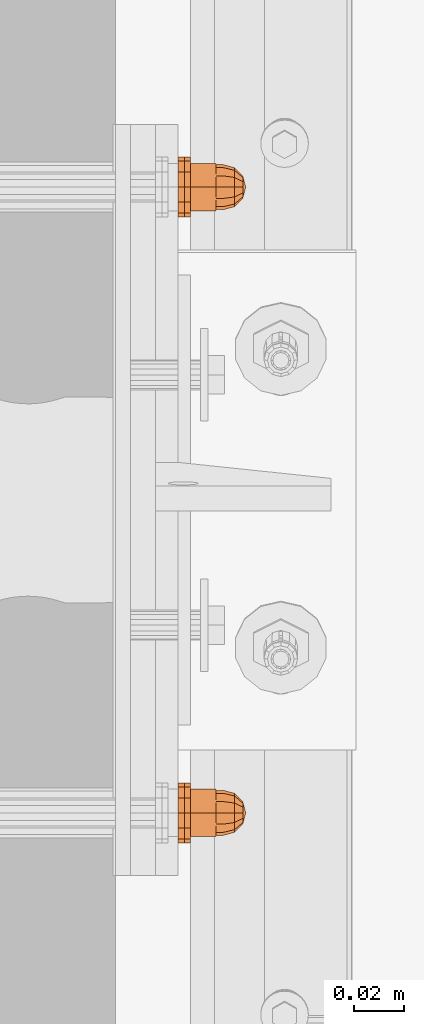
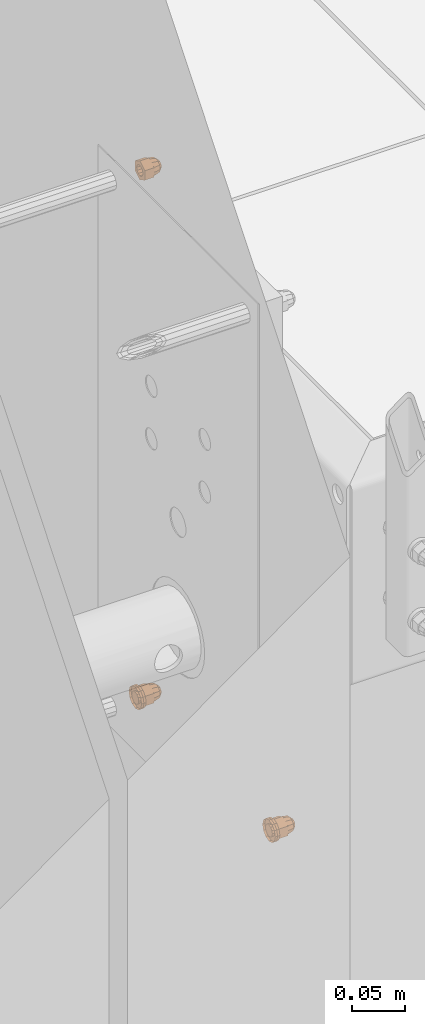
# One storey, part 113 of 162: 7 proxies.
"""IFC2X3 building model written with IfcOpenShell, lengths in millimetres."""

from ifc_helpers import new_model, entity, si_unit, converted_unit, origin_with_axes, place, context, project, spatial, faceted_brep, material, element, save


model = new_model("IFC2X3")

# Units and contexts
model_context = context("Model", 3, precision=1e-09, world=origin_with_axes())
ifc_project = project(units=[si_unit("LENGTHUNIT", "METRE", prefix="MILLI"), si_unit("AREAUNIT", "SQUARE_METRE"), si_unit("VOLUMEUNIT", "CUBIC_METRE"), converted_unit("PLANEANGLEUNIT", "DEGREE", entity("IfcPlaneAngleMeasure", 0.01745329), si_unit("PLANEANGLEUNIT", "RADIAN"), dimensions=[0, 0, 0, 0, 0, 0, 0])], contexts=[model_context])

# Site, building, storey
site_placement = place(None, origin_with_axes())
site = spatial("IfcSite", under=ifc_project, at=site_placement, Name="Hermannstra?e 1a, 60318 Frankfurt", CompositionType="ELEMENT")
building_placement = place(site_placement, origin_with_axes())
building = spatial("IfcBuilding", under=site, at=building_placement, Name="Struktur 1", CompositionType="ELEMENT")
storey_placement = place(building_placement, origin_with_axes())
storey = spatial("IfcBuildingStorey", under=building, at=storey_placement, Name="Default Storey", CompositionType="ELEMENT", Elevation=0.0)

# Proxies
ifc_material_1 = material(Name="Kunststoff")
proxy_1_placement = place(None, origin_with_axes())
element("IfcBuildingElementProxy", 1, at=proxy_1_placement, inside=storey, material=ifc_material_1, ObjectType="-", context=model_context, shape_type="Brep", body=[
    faceted_brep([(2548.308657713, 1941.00097164, 7311.0), (2550.808657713, 1941.00097164, 7311.0), (2550.808657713, 1942.608666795, 7305.0), (2548.308657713, 1942.608666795, 7305.0), (2548.308657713, 1936.237831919, 7308.25), (2548.308657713, 1933.858666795, 7310.629165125), (2548.308657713, 1930.608666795, 7311.5), (2548.308657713, 1927.358666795, 7310.629165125), (2548.308657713, 1924.97950167, 7308.25), (2548.308657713, 1924.108666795, 7305.0), (2548.308657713, 1924.97950167, 7301.75), (2548.308657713, 1927.358666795, 7299.370834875), (2548.308657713, 1930.608666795, 7298.5), (2548.308657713, 1933.858666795, 7299.370834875), (2548.308657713, 1936.237831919, 7301.75), (2548.308657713, 1937.108666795, 7305.0), (2550.808657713, 1937.108666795, 7305.0), (2550.808657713, 1936.237831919, 7308.25), (2550.808657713, 1936.608666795, 7315.392304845), (2550.808657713, 1930.608666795, 7317.0), (2550.808657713, 1924.608666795, 7315.392304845), (2550.808657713, 1920.216361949, 7311.0), (2550.808657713, 1918.608666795, 7305.0), (2550.808657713, 1920.216361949, 7299.0), (2550.808657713, 1924.608666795, 7294.607695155), (2550.808657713, 1930.608666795, 7293.0), (2550.808657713, 1936.608666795, 7294.607695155), (2550.808657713, 1941.00097164, 7299.0), (2548.308657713, 1936.608666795, 7315.392304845), (2550.808657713, 1936.237831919, 7301.75), (2548.308657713, 1941.00097164, 7299.0), (2550.808657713, 1933.858666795, 7310.629165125), (2548.308657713, 1930.608666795, 7317.0), (2550.808657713, 1933.858666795, 7299.370834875), (2548.308657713, 1936.608666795, 7294.607695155), (2550.808657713, 1930.608666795, 7311.5), (2550.808657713, 1930.608666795, 7298.5), (2548.308657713, 1924.608666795, 7315.392304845), (2550.808657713, 1927.358666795, 7310.629165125), (2548.308657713, 1930.608666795, 7293.0), (2550.808657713, 1927.358666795, 7299.370834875), (2548.308657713, 1920.216361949, 7311.0), (2550.808657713, 1924.97950167, 7308.25), (2548.308657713, 1924.608666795, 7294.607695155), (2550.808657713, 1924.97950167, 7301.75), (2548.308657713, 1918.608666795, 7305.0), (2550.808657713, 1924.108666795, 7305.0), (2548.308657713, 1920.216361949, 7299.0)], [[[0, 1, 2, 3]], [[4, 5, 6, 7, 8, 9, 10, 11, 12, 13, 14, 15]], [[15, 16, 17, 4]], [[1, 18, 19, 20, 21, 22, 23, 24, 25, 26, 27, 2]], [[1, 0, 28, 18]], [[16, 15, 14, 29]], [[3, 2, 27, 30]], [[4, 17, 31, 5]], [[18, 28, 32, 19]], [[29, 14, 13, 33]], [[30, 27, 26, 34]], [[5, 31, 35, 6]], [[33, 13, 12, 36]], [[19, 32, 37, 20]], [[6, 35, 38, 7]], [[34, 26, 25, 39]], [[36, 12, 11, 40]], [[20, 37, 41, 21]], [[7, 38, 42, 8]], [[39, 25, 24, 43]], [[40, 11, 10, 44]], [[21, 41, 45, 22]], [[8, 42, 46, 9]], [[43, 24, 23, 47]], [[44, 10, 9, 46]], [[22, 45, 47, 23]]]),
])
ifc_material_2 = material(Name="A4")
proxy_2_placement = place(None, origin_with_axes())
element("IfcBuildingElementProxy", 2, at=proxy_2_placement, inside=storey, material=ifc_material_2, ObjectType="-", context=model_context, shape_type="Brep", body=[
    faceted_brep([(2550.808657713, 1920.216361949, 7311.0), (2553.308657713, 1920.216361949, 7311.0), (2553.308657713, 1924.608666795, 7315.392304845), (2550.808657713, 1924.608666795, 7315.392304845), (2553.308657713, 1918.608666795, 7305.0), (2553.308657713, 1920.216361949, 7299.0), (2553.308657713, 1924.608666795, 7294.607695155), (2553.308657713, 1930.608666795, 7293.0), (2553.308657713, 1936.608666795, 7294.607695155), (2553.308657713, 1941.00097164, 7299.0), (2553.308657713, 1942.608666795, 7305.0), (2553.308657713, 1941.00097164, 7311.0), (2553.308657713, 1936.608666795, 7315.392304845), (2553.308657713, 1930.608666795, 7317.0), (2553.308657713, 1930.608666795, 7311.5), (2553.308657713, 1933.858666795, 7310.629165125), (2553.308657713, 1936.237831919, 7308.25), (2553.308657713, 1937.108666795, 7305.0), (2553.308657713, 1936.237831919, 7301.75), (2553.308657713, 1933.858666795, 7299.370834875), (2553.308657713, 1930.608666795, 7298.5), (2553.308657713, 1927.358666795, 7299.370834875), (2553.308657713, 1924.97950167, 7301.75), (2553.308657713, 1924.108666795, 7305.0), (2553.308657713, 1924.97950167, 7308.25), (2553.308657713, 1927.358666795, 7310.629165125), (2550.808657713, 1924.97950167, 7308.25), (2550.808657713, 1924.108666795, 7305.0), (2550.808657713, 1924.97950167, 7301.75), (2550.808657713, 1927.358666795, 7299.370834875), (2550.808657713, 1930.608666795, 7298.5), (2550.808657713, 1933.858666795, 7299.370834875), (2550.808657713, 1936.237831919, 7301.75), (2550.808657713, 1937.108666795, 7305.0), (2550.808657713, 1936.237831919, 7308.25), (2550.808657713, 1933.858666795, 7310.629165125), (2550.808657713, 1930.608666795, 7311.5), (2550.808657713, 1927.358666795, 7310.629165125), (2550.808657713, 1918.608666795, 7305.0), (2550.808657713, 1930.608666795, 7317.0), (2550.808657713, 1920.216361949, 7299.0), (2550.808657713, 1936.608666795, 7315.392304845), (2550.808657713, 1924.608666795, 7294.607695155), (2550.808657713, 1941.00097164, 7311.0), (2550.808657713, 1930.608666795, 7293.0), (2550.808657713, 1942.608666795, 7305.0), (2550.808657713, 1936.608666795, 7294.607695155), (2550.808657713, 1941.00097164, 7299.0)], [[[0, 1, 2, 3]], [[2, 1, 4, 5, 6, 7, 8, 9, 10, 11, 12, 13], [14, 15, 16, 17, 18, 19, 20, 21, 22, 23, 24, 25]], [[26, 27, 28, 29, 30, 31, 32, 33, 34, 35, 36, 37]], [[24, 26, 37, 25]], [[1, 0, 38, 4]], [[26, 24, 23, 27]], [[25, 37, 36, 14]], [[3, 2, 13, 39]], [[4, 38, 40, 5]], [[27, 23, 22, 28]], [[14, 36, 35, 15]], [[39, 13, 12, 41]], [[5, 40, 42, 6]], [[28, 22, 21, 29]], [[15, 35, 34, 16]], [[41, 12, 11, 43]], [[33, 17, 16, 34]], [[6, 42, 44, 7]], [[29, 21, 20, 30]], [[32, 18, 17, 33]], [[43, 11, 10, 45]], [[19, 31, 30, 20]], [[18, 32, 31, 19]], [[7, 44, 46, 8]], [[45, 10, 9, 47]], [[8, 46, 47, 9]]]),
])
proxy_3_placement = place(None, origin_with_axes())
element("IfcBuildingElementProxy", 3, at=proxy_3_placement, inside=storey, material=ifc_material_2, ObjectType="-", context=model_context, shape_type="Brep", body=[
    faceted_brep([(2563.308657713, 1936.608666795, 7305.0), (2553.308657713, 1936.608666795, 7305.0), (2553.308657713, 1935.804819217, 7302.0), (2563.308657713, 1935.804819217, 7302.0), (2553.308657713, 1933.608666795, 7299.803847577), (2563.308657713, 1933.608666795, 7299.803847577), (2563.308657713, 1935.804819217, 7308.0), (2553.308657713, 1935.804819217, 7308.0), (2553.308657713, 1940.088536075, 7310.473205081), (2553.308657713, 1940.088536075, 7299.526794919), (2553.308657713, 1930.608666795, 7294.053589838), (2553.308657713, 1921.128797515, 7299.526794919), (2553.308657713, 1921.128797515, 7310.473205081), (2553.308657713, 1930.608666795, 7315.946410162), (2553.308657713, 1933.608666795, 7310.196152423), (2553.308657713, 1930.608666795, 7311.0), (2553.308657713, 1927.608666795, 7310.196152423), (2553.308657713, 1925.412514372, 7308.0), (2553.308657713, 1924.608666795, 7305.0), (2553.308657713, 1925.412514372, 7302.0), (2553.308657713, 1927.608666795, 7299.803847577), (2553.308657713, 1930.608666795, 7299.0), (2563.308657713, 1940.088536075, 7310.473205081), (2563.308657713, 1930.608666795, 7315.946410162), (2563.308657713, 1921.128797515, 7310.473205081), (2563.308657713, 1921.128797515, 7299.526794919), (2563.308657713, 1930.608666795, 7294.053589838), (2563.308657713, 1940.088536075, 7299.526794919), (2563.308657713, 1933.608666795, 7310.196152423), (2563.308657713, 1930.608666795, 7299.0), (2563.308657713, 1930.608666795, 7311.0), (2563.308657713, 1927.608666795, 7299.803847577), (2563.308657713, 1927.608666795, 7310.196152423), (2563.308657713, 1925.412514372, 7302.0), (2563.308657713, 1925.412514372, 7308.0), (2563.308657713, 1924.608666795, 7305.0)], [[[0, 1, 2, 3]], [[3, 2, 4, 5]], [[1, 0, 6, 7]], [[8, 9, 10, 11, 12, 13], [7, 14, 15, 16, 17, 18, 19, 20, 21, 4, 2, 1]], [[22, 23, 24, 25, 26, 27]], [[7, 6, 28, 14]], [[22, 27, 9, 8]], [[5, 4, 21, 29]], [[10, 9, 27, 26]], [[14, 28, 30, 15]], [[23, 22, 8, 13]], [[29, 21, 20, 31]], [[11, 10, 26, 25]], [[15, 30, 32, 16]], [[24, 23, 13, 12]], [[31, 20, 19, 33]], [[25, 24, 12, 11]], [[16, 32, 34, 17]], [[33, 19, 18, 35]], [[17, 34, 35, 18]]]),
    faceted_brep([(2566.308657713, 1930.608666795, 7314.0), (2563.308657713, 1930.608666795, 7314.0), (2563.308657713, 1926.108666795, 7312.794228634), (2566.308657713, 1926.108666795, 7312.794228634), (2566.308657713, 1935.108666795, 7312.794228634), (2563.308657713, 1935.108666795, 7312.794228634), (2566.308657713, 1935.108666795, 7297.205771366), (2566.308657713, 1938.402895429, 7300.5), (2566.308657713, 1939.608666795, 7305.0), (2566.308657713, 1938.402895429, 7309.5), (2566.308657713, 1922.814438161, 7309.5), (2566.308657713, 1921.608666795, 7305.0), (2566.308657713, 1922.814438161, 7300.5), (2566.308657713, 1926.108666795, 7297.205771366), (2566.308657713, 1930.608666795, 7296.0), (2563.308657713, 1926.108666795, 7297.205771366), (2563.308657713, 1922.814438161, 7300.5), (2563.308657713, 1921.608666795, 7305.0), (2563.308657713, 1922.814438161, 7309.5), (2563.308657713, 1938.402895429, 7309.5), (2563.308657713, 1939.608666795, 7305.0), (2563.308657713, 1938.402895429, 7300.5), (2563.308657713, 1935.108666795, 7297.205771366), (2563.308657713, 1930.608666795, 7296.0)], [[[0, 1, 2, 3]], [[1, 0, 4, 5]], [[6, 7, 8, 9, 4, 0, 3, 10, 11, 12, 13, 14]], [[15, 16, 17, 18, 2, 1, 5, 19, 20, 21, 22, 23]], [[3, 2, 18, 10]], [[5, 4, 9, 19]], [[10, 18, 17, 11]], [[19, 9, 8, 20]], [[22, 6, 14, 23]], [[7, 21, 20, 8]], [[6, 22, 21, 7]], [[11, 17, 16, 12]], [[23, 14, 13, 15]], [[12, 16, 15, 13]]]),
    faceted_brep([(2570.808657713, 1937.358666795, 7308.897114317), (2566.308657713, 1938.402895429, 7309.5), (2566.308657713, 1935.108666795, 7312.794228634), (2570.808657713, 1934.505781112, 7311.75), (2566.308657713, 1926.108666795, 7297.205771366), (2566.308657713, 1922.814438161, 7300.5), (2566.308657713, 1921.608666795, 7305.0), (2566.308657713, 1922.814438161, 7309.5), (2566.308657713, 1926.108666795, 7312.794228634), (2566.308657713, 1930.608666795, 7314.0), (2566.308657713, 1939.608666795, 7305.0), (2566.308657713, 1938.402895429, 7300.5), (2566.308657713, 1935.108666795, 7297.205771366), (2566.308657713, 1930.608666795, 7296.0), (2570.808657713, 1930.608666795, 7312.794228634), (2574.102886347, 1935.108666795, 7305.0), (2570.808657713, 1938.402895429, 7305.0), (2574.102886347, 1934.505781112, 7307.25), (2570.808657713, 1926.711552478, 7311.75), (2574.102886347, 1932.858666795, 7308.897114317), (2574.102886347, 1934.505781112, 7302.75), (2570.808657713, 1937.358666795, 7301.102885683), (2574.102886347, 1930.608666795, 7309.5), (2575.308657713, 1930.608666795, 7305.0), (2574.102886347, 1932.858666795, 7301.102885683), (2570.808657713, 1934.505781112, 7298.25), (2570.808657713, 1930.608666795, 7297.205771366), (2570.808657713, 1923.858666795, 7308.897114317), (2574.102886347, 1928.358666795, 7308.897114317), (2574.102886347, 1930.608666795, 7300.5), (2570.808657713, 1926.711552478, 7298.25), (2574.102886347, 1928.358666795, 7301.102885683), (2570.808657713, 1922.814438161, 7305.0), (2574.102886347, 1926.711552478, 7307.25), (2570.808657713, 1923.858666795, 7301.102885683), (2574.102886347, 1926.711552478, 7302.75), (2574.102886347, 1926.108666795, 7305.0)], [[[0, 1, 2, 3]], [[4, 5, 6, 7, 8, 9, 2, 1, 10, 11, 12, 13]], [[3, 2, 9, 14]], [[15, 16, 0, 17]], [[1, 0, 16, 10]], [[14, 9, 8, 18]], [[17, 0, 3, 19]], [[16, 15, 20, 21]], [[19, 3, 14, 22]], [[17, 23, 15]], [[24, 25, 21, 20]], [[15, 23, 20]], [[12, 25, 26, 13]], [[11, 21, 25, 12]], [[10, 16, 21, 11]], [[18, 8, 7, 27]], [[22, 14, 18, 28]], [[19, 23, 17]], [[29, 26, 25, 24]], [[20, 23, 24]], [[22, 23, 19]], [[13, 26, 30, 4]], [[26, 29, 31, 30]], [[24, 23, 29]], [[27, 7, 6, 32]], [[28, 18, 27, 33]], [[28, 23, 22]], [[29, 23, 31]], [[33, 23, 28]], [[4, 30, 34, 5]], [[30, 31, 35, 34]], [[31, 23, 35]], [[32, 6, 5, 34]], [[33, 27, 32, 36]], [[36, 23, 33]], [[35, 23, 36]], [[34, 35, 36, 32]]]),
])
proxy_4_placement = place(None, origin_with_axes())
element("IfcBuildingElementProxy", 4, at=proxy_4_placement, inside=storey, material=ifc_material_1, ObjectType="-", context=model_context, shape_type="Brep", body=[
    faceted_brep([(2548.308657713, 1691.00097164, 7311.0), (2550.808657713, 1691.00097164, 7311.0), (2550.808657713, 1692.608666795, 7305.0), (2548.308657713, 1692.608666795, 7305.0), (2548.308657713, 1686.237831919, 7308.25), (2548.308657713, 1683.858666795, 7310.629165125), (2548.308657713, 1680.608666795, 7311.5), (2548.308657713, 1677.358666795, 7310.629165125), (2548.308657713, 1674.97950167, 7308.25), (2548.308657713, 1674.108666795, 7305.0), (2548.308657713, 1674.97950167, 7301.75), (2548.308657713, 1677.358666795, 7299.370834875), (2548.308657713, 1680.608666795, 7298.5), (2548.308657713, 1683.858666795, 7299.370834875), (2548.308657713, 1686.237831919, 7301.75), (2548.308657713, 1687.108666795, 7305.0), (2550.808657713, 1687.108666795, 7305.0), (2550.808657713, 1686.237831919, 7308.25), (2550.808657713, 1686.608666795, 7315.392304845), (2550.808657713, 1680.608666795, 7317.0), (2550.808657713, 1674.608666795, 7315.392304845), (2550.808657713, 1670.216361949, 7311.0), (2550.808657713, 1668.608666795, 7305.0), (2550.808657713, 1670.216361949, 7299.0), (2550.808657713, 1674.608666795, 7294.607695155), (2550.808657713, 1680.608666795, 7293.0), (2550.808657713, 1686.608666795, 7294.607695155), (2550.808657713, 1691.00097164, 7299.0), (2548.308657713, 1686.608666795, 7315.392304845), (2550.808657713, 1686.237831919, 7301.75), (2548.308657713, 1691.00097164, 7299.0), (2550.808657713, 1683.858666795, 7310.629165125), (2548.308657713, 1680.608666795, 7317.0), (2550.808657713, 1683.858666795, 7299.370834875), (2548.308657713, 1686.608666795, 7294.607695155), (2550.808657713, 1680.608666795, 7311.5), (2550.808657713, 1680.608666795, 7298.5), (2548.308657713, 1674.608666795, 7315.392304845), (2550.808657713, 1677.358666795, 7310.629165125), (2548.308657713, 1680.608666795, 7293.0), (2550.808657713, 1677.358666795, 7299.370834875), (2548.308657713, 1670.216361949, 7311.0), (2550.808657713, 1674.97950167, 7308.25), (2548.308657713, 1674.608666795, 7294.607695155), (2550.808657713, 1674.97950167, 7301.75), (2548.308657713, 1668.608666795, 7305.0), (2550.808657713, 1674.108666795, 7305.0), (2548.308657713, 1670.216361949, 7299.0)], [[[0, 1, 2, 3]], [[4, 5, 6, 7, 8, 9, 10, 11, 12, 13, 14, 15]], [[15, 16, 17, 4]], [[1, 18, 19, 20, 21, 22, 23, 24, 25, 26, 27, 2]], [[1, 0, 28, 18]], [[16, 15, 14, 29]], [[3, 2, 27, 30]], [[4, 17, 31, 5]], [[18, 28, 32, 19]], [[29, 14, 13, 33]], [[30, 27, 26, 34]], [[5, 31, 35, 6]], [[33, 13, 12, 36]], [[19, 32, 37, 20]], [[6, 35, 38, 7]], [[34, 26, 25, 39]], [[36, 12, 11, 40]], [[20, 37, 41, 21]], [[7, 38, 42, 8]], [[39, 25, 24, 43]], [[40, 11, 10, 44]], [[21, 41, 45, 22]], [[8, 42, 46, 9]], [[43, 24, 23, 47]], [[44, 10, 9, 46]], [[22, 45, 47, 23]]]),
])
proxy_5_placement = place(None, origin_with_axes())
element("IfcBuildingElementProxy", 5, at=proxy_5_placement, inside=storey, material=ifc_material_2, ObjectType="-", context=model_context, shape_type="Brep", body=[
    faceted_brep([(2550.808657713, 1670.216361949, 7311.0), (2553.308657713, 1670.216361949, 7311.0), (2553.308657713, 1674.608666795, 7315.392304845), (2550.808657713, 1674.608666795, 7315.392304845), (2553.308657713, 1668.608666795, 7305.0), (2553.308657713, 1670.216361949, 7299.0), (2553.308657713, 1674.608666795, 7294.607695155), (2553.308657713, 1680.608666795, 7293.0), (2553.308657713, 1686.608666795, 7294.607695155), (2553.308657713, 1691.00097164, 7299.0), (2553.308657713, 1692.608666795, 7305.0), (2553.308657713, 1691.00097164, 7311.0), (2553.308657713, 1686.608666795, 7315.392304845), (2553.308657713, 1680.608666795, 7317.0), (2553.308657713, 1680.608666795, 7311.5), (2553.308657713, 1683.858666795, 7310.629165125), (2553.308657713, 1686.237831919, 7308.25), (2553.308657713, 1687.108666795, 7305.0), (2553.308657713, 1686.237831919, 7301.75), (2553.308657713, 1683.858666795, 7299.370834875), (2553.308657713, 1680.608666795, 7298.5), (2553.308657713, 1677.358666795, 7299.370834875), (2553.308657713, 1674.97950167, 7301.75), (2553.308657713, 1674.108666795, 7305.0), (2553.308657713, 1674.97950167, 7308.25), (2553.308657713, 1677.358666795, 7310.629165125), (2550.808657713, 1674.97950167, 7308.25), (2550.808657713, 1674.108666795, 7305.0), (2550.808657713, 1674.97950167, 7301.75), (2550.808657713, 1677.358666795, 7299.370834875), (2550.808657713, 1680.608666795, 7298.5), (2550.808657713, 1683.858666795, 7299.370834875), (2550.808657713, 1686.237831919, 7301.75), (2550.808657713, 1687.108666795, 7305.0), (2550.808657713, 1686.237831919, 7308.25), (2550.808657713, 1683.858666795, 7310.629165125), (2550.808657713, 1680.608666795, 7311.5), (2550.808657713, 1677.358666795, 7310.629165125), (2550.808657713, 1668.608666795, 7305.0), (2550.808657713, 1680.608666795, 7317.0), (2550.808657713, 1670.216361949, 7299.0), (2550.808657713, 1686.608666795, 7315.392304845), (2550.808657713, 1674.608666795, 7294.607695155), (2550.808657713, 1691.00097164, 7311.0), (2550.808657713, 1680.608666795, 7293.0), (2550.808657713, 1692.608666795, 7305.0), (2550.808657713, 1686.608666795, 7294.607695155), (2550.808657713, 1691.00097164, 7299.0)], [[[0, 1, 2, 3]], [[2, 1, 4, 5, 6, 7, 8, 9, 10, 11, 12, 13], [14, 15, 16, 17, 18, 19, 20, 21, 22, 23, 24, 25]], [[26, 27, 28, 29, 30, 31, 32, 33, 34, 35, 36, 37]], [[24, 26, 37, 25]], [[1, 0, 38, 4]], [[26, 24, 23, 27]], [[25, 37, 36, 14]], [[3, 2, 13, 39]], [[4, 38, 40, 5]], [[27, 23, 22, 28]], [[14, 36, 35, 15]], [[39, 13, 12, 41]], [[5, 40, 42, 6]], [[28, 22, 21, 29]], [[15, 35, 34, 16]], [[41, 12, 11, 43]], [[33, 17, 16, 34]], [[6, 42, 44, 7]], [[29, 21, 20, 30]], [[32, 18, 17, 33]], [[43, 11, 10, 45]], [[19, 31, 30, 20]], [[18, 32, 31, 19]], [[7, 44, 46, 8]], [[45, 10, 9, 47]], [[8, 46, 47, 9]]]),
])
proxy_6_placement = place(None, origin_with_axes())
element("IfcBuildingElementProxy", 6, at=proxy_6_placement, inside=storey, material=ifc_material_2, ObjectType="-", context=model_context, shape_type="Brep", body=[
    faceted_brep([(2563.308657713, 1686.608666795, 7305.0), (2553.308657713, 1686.608666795, 7305.0), (2553.308657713, 1685.804819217, 7302.0), (2563.308657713, 1685.804819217, 7302.0), (2553.308657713, 1683.608666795, 7299.803847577), (2563.308657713, 1683.608666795, 7299.803847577), (2563.308657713, 1685.804819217, 7308.0), (2553.308657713, 1685.804819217, 7308.0), (2553.308657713, 1690.088536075, 7310.473205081), (2553.308657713, 1690.088536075, 7299.526794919), (2553.308657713, 1680.608666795, 7294.053589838), (2553.308657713, 1671.128797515, 7299.526794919), (2553.308657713, 1671.128797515, 7310.473205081), (2553.308657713, 1680.608666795, 7315.946410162), (2553.308657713, 1683.608666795, 7310.196152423), (2553.308657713, 1680.608666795, 7311.0), (2553.308657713, 1677.608666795, 7310.196152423), (2553.308657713, 1675.412514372, 7308.0), (2553.308657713, 1674.608666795, 7305.0), (2553.308657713, 1675.412514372, 7302.0), (2553.308657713, 1677.608666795, 7299.803847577), (2553.308657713, 1680.608666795, 7299.0), (2563.308657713, 1690.088536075, 7310.473205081), (2563.308657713, 1680.608666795, 7315.946410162), (2563.308657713, 1671.128797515, 7310.473205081), (2563.308657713, 1671.128797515, 7299.526794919), (2563.308657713, 1680.608666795, 7294.053589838), (2563.308657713, 1690.088536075, 7299.526794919), (2563.308657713, 1683.608666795, 7310.196152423), (2563.308657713, 1680.608666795, 7299.0), (2563.308657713, 1680.608666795, 7311.0), (2563.308657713, 1677.608666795, 7299.803847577), (2563.308657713, 1677.608666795, 7310.196152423), (2563.308657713, 1675.412514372, 7302.0), (2563.308657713, 1675.412514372, 7308.0), (2563.308657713, 1674.608666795, 7305.0)], [[[0, 1, 2, 3]], [[3, 2, 4, 5]], [[1, 0, 6, 7]], [[8, 9, 10, 11, 12, 13], [7, 14, 15, 16, 17, 18, 19, 20, 21, 4, 2, 1]], [[22, 23, 24, 25, 26, 27]], [[7, 6, 28, 14]], [[22, 27, 9, 8]], [[5, 4, 21, 29]], [[10, 9, 27, 26]], [[14, 28, 30, 15]], [[23, 22, 8, 13]], [[29, 21, 20, 31]], [[11, 10, 26, 25]], [[15, 30, 32, 16]], [[24, 23, 13, 12]], [[31, 20, 19, 33]], [[25, 24, 12, 11]], [[16, 32, 34, 17]], [[33, 19, 18, 35]], [[17, 34, 35, 18]]]),
    faceted_brep([(2566.308657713, 1680.608666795, 7314.0), (2563.308657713, 1680.608666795, 7314.0), (2563.308657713, 1676.108666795, 7312.794228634), (2566.308657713, 1676.108666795, 7312.794228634), (2566.308657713, 1685.108666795, 7312.794228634), (2563.308657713, 1685.108666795, 7312.794228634), (2566.308657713, 1685.108666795, 7297.205771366), (2566.308657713, 1688.402895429, 7300.5), (2566.308657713, 1689.608666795, 7305.0), (2566.308657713, 1688.402895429, 7309.5), (2566.308657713, 1672.814438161, 7309.5), (2566.308657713, 1671.608666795, 7305.0), (2566.308657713, 1672.814438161, 7300.5), (2566.308657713, 1676.108666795, 7297.205771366), (2566.308657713, 1680.608666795, 7296.0), (2563.308657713, 1676.108666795, 7297.205771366), (2563.308657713, 1672.814438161, 7300.5), (2563.308657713, 1671.608666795, 7305.0), (2563.308657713, 1672.814438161, 7309.5), (2563.308657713, 1688.402895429, 7309.5), (2563.308657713, 1689.608666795, 7305.0), (2563.308657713, 1688.402895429, 7300.5), (2563.308657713, 1685.108666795, 7297.205771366), (2563.308657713, 1680.608666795, 7296.0)], [[[0, 1, 2, 3]], [[1, 0, 4, 5]], [[6, 7, 8, 9, 4, 0, 3, 10, 11, 12, 13, 14]], [[15, 16, 17, 18, 2, 1, 5, 19, 20, 21, 22, 23]], [[3, 2, 18, 10]], [[5, 4, 9, 19]], [[10, 18, 17, 11]], [[19, 9, 8, 20]], [[22, 6, 14, 23]], [[7, 21, 20, 8]], [[6, 22, 21, 7]], [[11, 17, 16, 12]], [[23, 14, 13, 15]], [[12, 16, 15, 13]]]),
    faceted_brep([(2570.808657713, 1687.358666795, 7308.897114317), (2566.308657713, 1688.402895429, 7309.5), (2566.308657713, 1685.108666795, 7312.794228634), (2570.808657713, 1684.505781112, 7311.75), (2566.308657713, 1676.108666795, 7297.205771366), (2566.308657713, 1672.814438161, 7300.5), (2566.308657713, 1671.608666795, 7305.0), (2566.308657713, 1672.814438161, 7309.5), (2566.308657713, 1676.108666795, 7312.794228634), (2566.308657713, 1680.608666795, 7314.0), (2566.308657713, 1689.608666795, 7305.0), (2566.308657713, 1688.402895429, 7300.5), (2566.308657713, 1685.108666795, 7297.205771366), (2566.308657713, 1680.608666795, 7296.0), (2570.808657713, 1680.608666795, 7312.794228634), (2574.102886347, 1685.108666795, 7305.0), (2570.808657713, 1688.402895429, 7305.0), (2574.102886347, 1684.505781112, 7307.25), (2570.808657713, 1676.711552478, 7311.75), (2574.102886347, 1682.858666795, 7308.897114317), (2574.102886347, 1684.505781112, 7302.75), (2570.808657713, 1687.358666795, 7301.102885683), (2574.102886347, 1680.608666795, 7309.5), (2575.308657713, 1680.608666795, 7305.0), (2574.102886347, 1682.858666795, 7301.102885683), (2570.808657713, 1684.505781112, 7298.25), (2570.808657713, 1680.608666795, 7297.205771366), (2570.808657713, 1673.858666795, 7308.897114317), (2574.102886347, 1678.358666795, 7308.897114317), (2574.102886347, 1680.608666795, 7300.5), (2570.808657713, 1676.711552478, 7298.25), (2574.102886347, 1678.358666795, 7301.102885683), (2570.808657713, 1672.814438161, 7305.0), (2574.102886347, 1676.711552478, 7307.25), (2570.808657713, 1673.858666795, 7301.102885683), (2574.102886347, 1676.711552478, 7302.75), (2574.102886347, 1676.108666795, 7305.0)], [[[0, 1, 2, 3]], [[4, 5, 6, 7, 8, 9, 2, 1, 10, 11, 12, 13]], [[3, 2, 9, 14]], [[15, 16, 0, 17]], [[1, 0, 16, 10]], [[14, 9, 8, 18]], [[17, 0, 3, 19]], [[16, 15, 20, 21]], [[19, 3, 14, 22]], [[17, 23, 15]], [[24, 25, 21, 20]], [[15, 23, 20]], [[12, 25, 26, 13]], [[11, 21, 25, 12]], [[10, 16, 21, 11]], [[18, 8, 7, 27]], [[22, 14, 18, 28]], [[19, 23, 17]], [[29, 26, 25, 24]], [[20, 23, 24]], [[22, 23, 19]], [[13, 26, 30, 4]], [[26, 29, 31, 30]], [[24, 23, 29]], [[27, 7, 6, 32]], [[28, 18, 27, 33]], [[28, 23, 22]], [[29, 23, 31]], [[33, 23, 28]], [[4, 30, 34, 5]], [[30, 31, 35, 34]], [[31, 23, 35]], [[32, 6, 5, 34]], [[33, 27, 32, 36]], [[36, 23, 33]], [[35, 23, 36]], [[34, 35, 36, 32]]]),
])
proxy_7_placement = place(None, origin_with_axes())
element("IfcBuildingElementProxy", 7, at=proxy_7_placement, inside=storey, material=ifc_material_2, ObjectType="-", context=model_context, shape_type="Brep", body=[
    faceted_brep([(2553.308657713, 1936.608666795, 7905.0), (2563.308657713, 1936.608666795, 7905.0), (2563.308657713, 1935.804819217, 7908.0), (2553.308657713, 1935.804819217, 7908.0), (2563.308657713, 1933.608666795, 7910.196152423), (2553.308657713, 1933.608666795, 7910.196152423), (2553.308657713, 1935.804819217, 7902.0), (2563.308657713, 1935.804819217, 7902.0), (2553.308657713, 1940.088536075, 7899.526794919), (2553.308657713, 1930.608666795, 7894.053589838), (2553.308657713, 1921.128797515, 7899.526794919), (2553.308657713, 1921.128797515, 7910.473205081), (2553.308657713, 1930.608666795, 7915.946410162), (2553.308657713, 1940.088536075, 7910.473205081), (2553.308657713, 1933.608666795, 7899.803847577), (2553.308657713, 1930.608666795, 7911.0), (2553.308657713, 1927.608666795, 7910.196152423), (2553.308657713, 1925.412514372, 7908.0), (2553.308657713, 1924.608666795, 7905.0), (2553.308657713, 1925.412514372, 7902.0), (2553.308657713, 1927.608666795, 7899.803847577), (2553.308657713, 1930.608666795, 7899.0), (2563.308657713, 1930.608666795, 7894.053589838), (2563.308657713, 1940.088536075, 7899.526794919), (2563.308657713, 1940.088536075, 7910.473205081), (2563.308657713, 1930.608666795, 7915.946410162), (2563.308657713, 1921.128797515, 7910.473205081), (2563.308657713, 1921.128797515, 7899.526794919), (2563.308657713, 1933.608666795, 7899.803847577), (2563.308657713, 1930.608666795, 7899.0), (2563.308657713, 1927.608666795, 7899.803847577), (2563.308657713, 1925.412514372, 7902.0), (2563.308657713, 1924.608666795, 7905.0), (2563.308657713, 1925.412514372, 7908.0), (2563.308657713, 1927.608666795, 7910.196152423), (2563.308657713, 1930.608666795, 7911.0)], [[[0, 1, 2, 3]], [[3, 2, 4, 5]], [[1, 0, 6, 7]], [[8, 9, 10, 11, 12, 13], [14, 6, 0, 3, 5, 15, 16, 17, 18, 19, 20, 21]], [[22, 23, 24, 25, 26, 27], [1, 7, 28, 29, 30, 31, 32, 33, 34, 35, 4, 2]], [[7, 6, 14, 28]], [[24, 23, 8, 13]], [[5, 4, 35, 15]], [[13, 12, 25, 24]], [[28, 14, 21, 29]], [[23, 22, 9, 8]], [[15, 35, 34, 16]], [[12, 11, 26, 25]], [[29, 21, 20, 30]], [[22, 27, 10, 9]], [[16, 34, 33, 17]], [[27, 26, 11, 10]], [[30, 20, 19, 31]], [[17, 33, 32, 18]], [[31, 19, 18, 32]]]),
    faceted_brep([(2563.308657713, 1930.608666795, 7896.0), (2566.308657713, 1930.608666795, 7896.0), (2566.308657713, 1926.108666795, 7897.205771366), (2563.308657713, 1926.108666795, 7897.205771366), (2563.308657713, 1935.108666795, 7897.205771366), (2566.308657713, 1935.108666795, 7897.205771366), (2566.308657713, 1938.402895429, 7909.5), (2566.308657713, 1935.108666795, 7912.794228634), (2566.308657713, 1930.608666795, 7914.0), (2566.308657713, 1926.108666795, 7912.794228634), (2566.308657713, 1922.814438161, 7909.5), (2566.308657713, 1921.608666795, 7905.0), (2566.308657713, 1922.814438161, 7900.5), (2566.308657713, 1938.402895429, 7900.5), (2566.308657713, 1939.608666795, 7905.0), (2563.308657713, 1922.814438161, 7909.5), (2563.308657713, 1926.108666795, 7912.794228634), (2563.308657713, 1930.608666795, 7914.0), (2563.308657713, 1935.108666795, 7912.794228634), (2563.308657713, 1938.402895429, 7909.5), (2563.308657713, 1939.608666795, 7905.0), (2563.308657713, 1938.402895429, 7900.5), (2563.308657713, 1922.814438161, 7900.5), (2563.308657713, 1921.608666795, 7905.0)], [[[0, 1, 2, 3]], [[1, 0, 4, 5]], [[6, 7, 8, 9, 10, 11, 12, 2, 1, 5, 13, 14]], [[15, 16, 17, 18, 19, 20, 21, 4, 0, 3, 22, 23]], [[3, 2, 12, 22]], [[5, 4, 21, 13]], [[22, 12, 11, 23]], [[13, 21, 20, 14]], [[7, 18, 17, 8]], [[19, 6, 14, 20]], [[18, 7, 6, 19]], [[23, 11, 10, 15]], [[8, 17, 16, 9]], [[15, 10, 9, 16]]]),
    faceted_brep([(2566.308657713, 1938.402895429, 7900.5), (2570.808657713, 1937.358666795, 7901.102885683), (2570.808657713, 1934.505781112, 7898.25), (2566.308657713, 1935.108666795, 7897.205771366), (2566.308657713, 1922.814438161, 7909.5), (2566.308657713, 1926.108666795, 7912.794228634), (2566.308657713, 1930.608666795, 7914.0), (2566.308657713, 1935.108666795, 7912.794228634), (2566.308657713, 1938.402895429, 7909.5), (2566.308657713, 1939.608666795, 7905.0), (2566.308657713, 1930.608666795, 7896.0), (2566.308657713, 1926.108666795, 7897.205771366), (2566.308657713, 1922.814438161, 7900.5), (2566.308657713, 1921.608666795, 7905.0), (2570.808657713, 1930.608666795, 7897.205771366), (2570.808657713, 1938.402895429, 7905.0), (2574.102886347, 1935.108666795, 7905.0), (2574.102886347, 1934.505781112, 7902.75), (2570.808657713, 1926.711552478, 7898.25), (2574.102886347, 1932.858666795, 7901.102885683), (2570.808657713, 1937.358666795, 7908.897114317), (2574.102886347, 1934.505781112, 7907.25), (2574.102886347, 1930.608666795, 7900.5), (2575.308657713, 1930.608666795, 7905.0), (2570.808657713, 1934.505781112, 7911.75), (2574.102886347, 1932.858666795, 7908.897114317), (2570.808657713, 1930.608666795, 7912.794228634), (2570.808657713, 1923.858666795, 7901.102885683), (2574.102886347, 1928.358666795, 7901.102885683), (2574.102886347, 1930.608666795, 7909.5), (2570.808657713, 1926.711552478, 7911.75), (2574.102886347, 1928.358666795, 7908.897114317), (2570.808657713, 1922.814438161, 7905.0), (2574.102886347, 1926.711552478, 7902.75), (2570.808657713, 1923.858666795, 7908.897114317), (2574.102886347, 1926.711552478, 7907.25), (2574.102886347, 1926.108666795, 7905.0)], [[[0, 1, 2, 3]], [[4, 5, 6, 7, 8, 9, 0, 3, 10, 11, 12, 13]], [[3, 2, 14, 10]], [[15, 16, 17, 1]], [[1, 0, 9, 15]], [[10, 14, 18, 11]], [[1, 17, 19, 2]], [[16, 15, 20, 21]], [[2, 19, 22, 14]], [[23, 17, 16]], [[24, 25, 21, 20]], [[23, 16, 21]], [[24, 7, 6, 26]], [[20, 8, 7, 24]], [[15, 9, 8, 20]], [[11, 18, 27, 12]], [[14, 22, 28, 18]], [[23, 19, 17]], [[26, 29, 25, 24]], [[23, 21, 25]], [[23, 22, 19]], [[26, 6, 5, 30]], [[29, 26, 30, 31]], [[23, 25, 29]], [[12, 27, 32, 13]], [[18, 28, 33, 27]], [[23, 28, 22]], [[23, 29, 31]], [[23, 33, 28]], [[30, 5, 4, 34]], [[31, 30, 34, 35]], [[23, 31, 35]], [[13, 32, 34, 4]], [[27, 33, 36, 32]], [[23, 36, 33]], [[23, 35, 36]], [[35, 34, 32, 36]]]),
])

save(model, "model.ifc")
